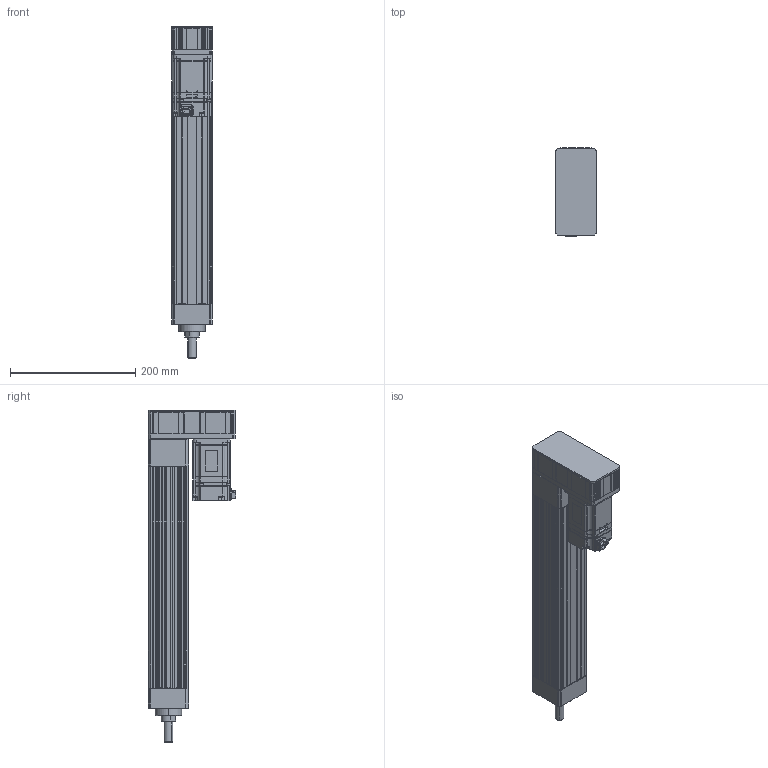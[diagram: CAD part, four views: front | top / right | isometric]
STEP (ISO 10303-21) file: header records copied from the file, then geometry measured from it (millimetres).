
FILE_DESCRIPTION (( 'STEP AP203' ), '1' );
FILE_NAME ('ANS065R-P250-05(10)(20)-W40-M.STEP', '2019-03-03T04:39:12', ( 'user' ), ( '' ), 'SwSTEP 2.0', 'SolidWorks 2013', '' );
FILE_SCHEMA (( 'CONFIG_CONTROL_DESIGN' ));
Length unit declared in the file: millimetre
Products named in the file (4): ANS065R-P250-05(10)(20)-W40-M; ANS065R P250 VER2; sgmjv_04a_a21; ANS065 ROD ST250-M
Assembly tree (3 placements, depth 2):
  ANS065R-P250-05(10)(20)-W40-M
    ANS065R P250 VER2
    sgmjv_04a_a21
    ANS065 ROD ST250-M
Bounding box: 65 x 140.3 x 530 mm (x, y, z)
Volume: 1570264.9 mm3; surface area: 378098.4 mm2
Topology: 3 solids, 7 shells, 1283 faces, 3465 edges, 2248 vertices
Faces by surface type: plane 817, cylinder 380, cone 86
Entity records: 40363 total; most frequent: CARTESIAN_POINT 7232, ORIENTED_EDGE 6898, DIRECTION 6761, EDGE_CURVE 3449, VECTOR 2567, LINE 2567, VERTEX_POINT 2248, AXIS2_PLACEMENT_3D 2097
